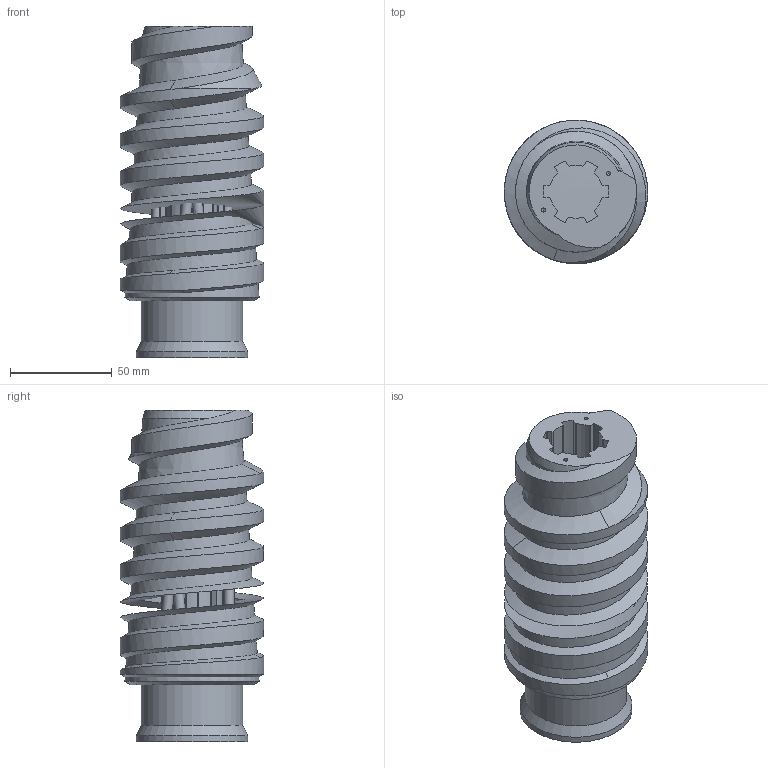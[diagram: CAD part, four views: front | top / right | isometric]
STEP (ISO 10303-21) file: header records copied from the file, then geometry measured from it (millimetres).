
FILE_DESCRIPTION(/* description */ ('Шнек дозирующий'),/* implementation_level */ '2;1');
FILE_NAME(/* name */ 'F:\ПРОЕКТЫ\Рабочие\В_работе\АВАНГАРД\Амарант\КД\Пресс_3\ПИЖМ.723581.013.stp',/* time_stamp */ '2019-07-11T08:45:00+03:00',/* author */ ('Cemen'),/* organization */ ('ОАО "Амарант"'),/* preprocessor_version */ 'ST-DEVELOPER v17.2',/* originating_system */ 'Autodesk Inventor 2019',/* authorisation */ '');
FILE_SCHEMA (('AUTOMOTIVE_DESIGN { 1 0 10303 214 3 1 1 }'));
Length unit declared in the file: millimetre
Products named in the file (1): ПИЖМ.723581.012
Bounding box: 70.5 x 70.49 x 163 mm (x, y, z)
Volume: 387571.8 mm3; surface area: 74764.7 mm2
Topology: 1 solids, 2 shells, 136 faces, 420 edges, 283 vertices
Faces by surface type: cylinder 45, plane 36, cone 35, bspline 20
Full cylindrical faces by diameter (mm): 2 x2, 4.1 x6, 5 x6, 32 x1, 50 x1, 55 x1, 59.5 x1, 70.5 x5
Entity records: 17559 total; most frequent: CARTESIAN_POINT 13923, ORIENTED_EDGE 814, DIRECTION 678, EDGE_CURVE 407, VERTEX_POINT 285, AXIS2_PLACEMENT_3D 253, LINE 172, VECTOR 172
